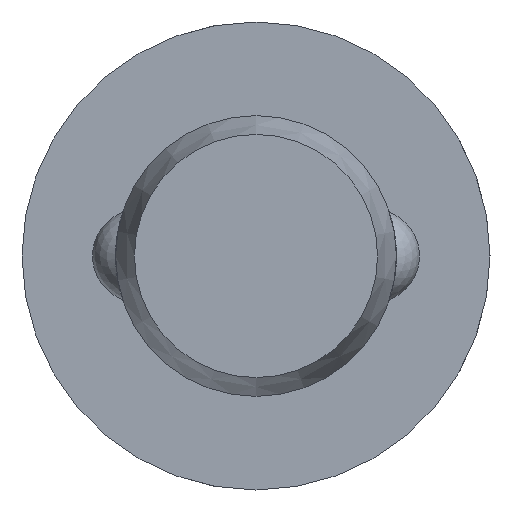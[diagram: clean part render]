
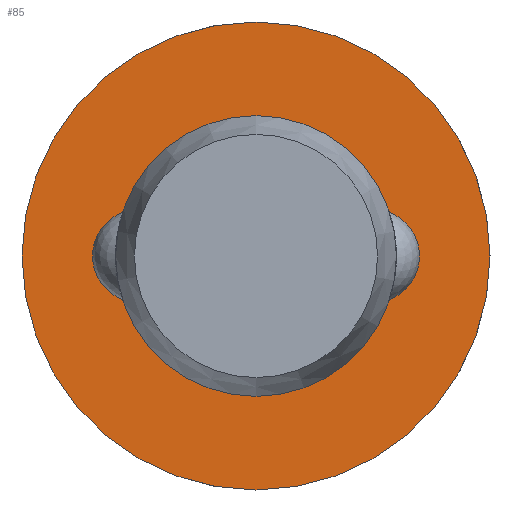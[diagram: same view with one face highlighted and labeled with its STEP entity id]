
A CAD part, left-side view. The second image highlights one B-rep face of the part: STEP entity #85.
In plain terms, the highlighted planar face has unit normal (-1, 0, 0).
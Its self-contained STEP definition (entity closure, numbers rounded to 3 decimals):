
#85 = ADVANCED_FACE( '', ( #131, #132 ), #133, .F. );
#131 = FACE_OUTER_BOUND( '', #204, .T. );
#132 = FACE_BOUND( '', #205, .T. );
#133 = PLANE( '', #206 );
#204 = EDGE_LOOP( '', ( #322 ) );
#205 = EDGE_LOOP( '', ( #323 ) );
#206 = AXIS2_PLACEMENT_3D( '', #324, #325, #326 );
#322 = ORIENTED_EDGE( '', *, *, #470, .F. );
#323 = ORIENTED_EDGE( '', *, *, #467, .T. );
#324 = CARTESIAN_POINT( '', ( 67., 3., 0. ) );
#325 = DIRECTION( '', ( 1., 0., 0. ) );
#326 = DIRECTION( '', ( 0., 0., -1. ) );
#467 = EDGE_CURVE( '', #541, #541, #542, .T. );
#470 = EDGE_CURVE( '', #547, #547, #548, .T. );
#541 = VERTEX_POINT( '', #749 );
#542 = CIRCLE( '', #750, 3. );
#547 = VERTEX_POINT( '', #817 );
#548 = CIRCLE( '', #818, 5. );
#749 = CARTESIAN_POINT( '', ( 67., 0., -3. ) );
#750 = AXIS2_PLACEMENT_3D( '', #897, #898, #899 );
#817 = CARTESIAN_POINT( '', ( 67., 0., -5. ) );
#818 = AXIS2_PLACEMENT_3D( '', #900, #901, #902 );
#897 = CARTESIAN_POINT( '', ( 67., 0., 0. ) );
#898 = DIRECTION( '', ( 1., 0., 0. ) );
#899 = DIRECTION( '', ( 0., 0., -1. ) );
#900 = CARTESIAN_POINT( '', ( 67., 0., 0. ) );
#901 = DIRECTION( '', ( 1., 0., 0. ) );
#902 = DIRECTION( '', ( 0., 0., -1. ) );
